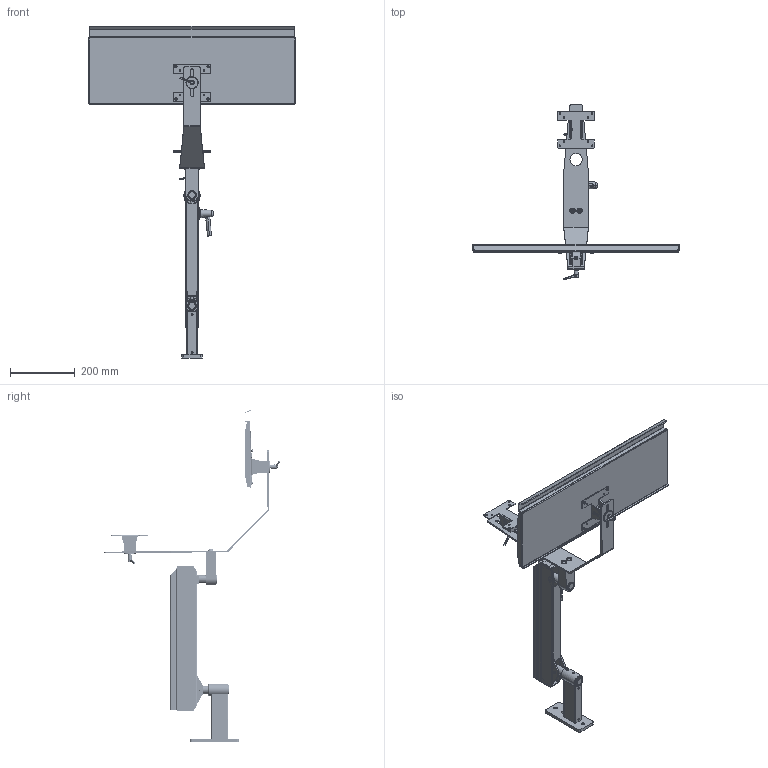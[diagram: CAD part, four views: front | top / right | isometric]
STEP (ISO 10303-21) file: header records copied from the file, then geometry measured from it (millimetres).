
FILE_DESCRIPTION (( 'STEP AP203' ), '1' );
FILE_NAME ('70-8646-00 REV AA, IND. FLEX 360 WORKSTATION, 18-43 LB - FLAT.STEP', '2025-09-30T23:07:05', ( '' ), ( '' ), 'SwSTEP 2.0', 'SolidWorks 2025', '' );
FILE_SCHEMA (( 'CONFIG_CONTROL_DESIGN' ));
Length unit declared in the file: inch
Products named in the file (61): 11-0027-RX REV AA, PLASTIC DISC, BRAKE ASSEMBLY_MACHINE; 71-0070-RX REV AA, AXLE PIN, SHORT; 005-084-00, BOLT, 1''4-20x2.75; 002-041-00_002-041-00; 70-0080-00 REV AA, INTEGRATED WORKSTATION_TRAY HORIZONTAL; 007-017-00, SHSS, 1''4-20, .25L_DEFAULT; 11-0405-BLKX REV AA, BRACKET, INTEGRATED WORKSTATION, BLACK; 70-0072-00 REV AA, EXTENSION ARM; 71-0071-RX REV AA, AXLE PIN, LONG; 006-059-00; 70-0095-00 REV AA, STUD MOUNT, 6in EXT; 71-0040-RX REV AA, BRAKE BLOCK, WIDE_MACHINE; 010-012-00, RETAINING RING, EXTERNAL, .875in SHAFT; 71-1051-RX REV AA, SPRING BLOCK; 007-036-00, SHSS, 1''4-28, .25L_007-036-00; 71-0217-RX REV AA, PLATE, NARROW WALL MOUNT_Laser; 016-008-00, OILITE PLUS BEARING, 0.876 id x 1.002 od x 1.25 lg; 71-0038-RX REV AA, PIVOT, KNUCKLE, ELECTROLESS NICKEL; 71-2113-RX REV AA, HOUSING, BEARING, TALL, 1.5OD_MACHINE; 71-1301-BLKX REV AA, FLEX HOUSING, 13.5in, BLACK_Weld; 013-036-00, SPRING, GREEN, 1x8_ISO425203; 002-306-00, BHSCS, 3''8-16 x .625; 006-004-00_006-004-00; 70-8646-00 REV AA, IND. FLEX 360 WORKSTATION, 18-43 LB - FLAT; 016-007-00, OILITE PLUS BEARING, 0.876 id x 1.002 od x 0.75 lg; 71-0037-RX REV AA, PIVOT, THREADED; 71-0031-RX REV AA, KNUCKLE, MOUNT_MACHINE; 11-0028-RX REV AA, PLASTIC DISC, VESA; 71-1032-RX REV AA, SPRING ROD, 13.5in FLEX; 007-034-00, SHSS, .375-24, .25L_007-034-00; 71-1033-RX REV AA, BOLT, ADJUSTING, 10.9; 010-011-00, RETAINING RING, EXT, .250 SHAFT_010-011-00; 71-0972-99 REV AA, END CAP, FLEX; 11-0406-BLKX REV AA, KEYBOARD TRAY, 25x8, BLACK; 004-050-00, WASHER, FIBER, .032 THK, .265ID; 019-004_019-004; 011-033-00; 71-1300-RX REV AA, HOUSING, 13.5in FLEX; 71-0072-RX REV AA, EXTENSION ARM, RAW; 41-0060-ANX REV AA, BODY, VESA, INT. WORKSTATION, BLACK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
Assembly tree (107 placements, depth 5):
  70-8646-00 REV AA, IND. FLEX 360 WORKSTATION, 18-43 LB - FLAT
    70-0095-00 REV AA, STUD MOUNT, 6in EXT
      71-0217-RX REV AA, PLATE, NARROW WALL MOUNT_Laser
      71-0091-RX REV AA, HOUSING, WALL MOUNT, 6in EXTENSION
      71-2113-RX REV AA, HOUSING, BEARING, TALL, 1.5OD_MACHINE
      016-007-00, OILITE PLUS BEARING, 0.876 id x 1.002 od x 0.75 lg
      016-008-00, OILITE PLUS BEARING, 0.876 id x 1.002 od x 1.25 lg
      007-036-00, SHSS, 1''4-28, .25L_007-036-00
    70-1343-00 REV AA, FLEX SECTION, 13.5in, 18-43 LB_Horizontal
      71-0031-RX REV AA, KNUCKLE, MOUNT_MACHINE
      71-1032-RX REV AA, SPRING ROD, 13.5in FLEX
      71-0030-RX REV AA, KNUCKLE, LOAD_MACHINE
      71-0038-RX REV AA, PIVOT, KNUCKLE, ELECTROLESS NICKEL
      71-1033-RX REV AA, BOLT, ADJUSTING, 10.9
      71-0037-RX REV AA, PIVOT, THREADED
      71-0040-RX REV AA, BRAKE BLOCK, WIDE_MACHINE
      71-1051-RX REV AA, SPRING BLOCK
      71-1301-BLKX REV AA, FLEX HOUSING, 13.5in, BLACK_Weld
        71-1300-RX REV AA, HOUSING, 13.5in FLEX
        71-0029-RX REV AA, TAB, LOAD  x2
        71-0028-RX REV AA, TAB, MOUNT_MACHINE  x2
      71-0070-RX REV AA, AXLE PIN, SHORT
      71-0071-RX REV AA, AXLE PIN, LONG
      71-0972-99 REV AA, END CAP, FLEX  x2
      11-0027-RX REV AA, PLASTIC DISC, BRAKE ASSEMBLY_MACHINE
      11-0650-00 REV AA, BRAKE HANDLE ASSEMBLY
        11-0601-99 REV AA, CONICAL KNOB, BRAKE ASSEMBLY
        11-0602-RX REV AA, HANDLE, BRAKE ASSEMBLY
        11-0027-RX REV AA, PLASTIC DISC, BRAKE ASSEMBLY_MACHINE
        005-084-00, BOLT, 1''4-20x2.75
      006-004-00_006-004-00  x2
      002-041-00_002-041-00  x2
      010-012-00, RETAINING RING, EXTERNAL, .875in SHAFT  x2
      010-011-00, RETAINING RING, EXT, .250 SHAFT_010-011-00  x4
      011-033-00
      004-050-00, WASHER, FIBER, .032 THK, .265ID  x8
      011-020-00 REV AA, PIN, KNURLED, 1.0LG x .25OD  x2
      004-144-00  x3
      006-059-00
      013-036-00, SPRING, GREEN, 1x8_ISO425203
      016-070-00, BEARING, PLASTIC, .5ID x .625 OD x .75  x2
    70-0080-00 REV AA, INTEGRATED WORKSTATION_TRAY HORIZONTAL
      11-0405-BLKX REV AA, BRACKET, INTEGRATED WORKSTATION, BLACK
      42-0060-00 REV AA, VESA SUB ASSEMBLY, INT. WORKSTATION
        41-0060-ANX REV AA, BODY, VESA, INT. WORKSTATION, BLACK
          41-0060-RX REV AA, BODY, VESA, INT. WORKSTATION
        41-0063-RX REV AA, PIN, TILT, VESA
        11-0062-BLKX REV AA, BRACKET, VESA, SHEETMETAL, BLACK
        11-0027-RX REV AA, PLASTIC DISC, BRAKE ASSEMBLY_MACHINE
        025-064-00, LOCK LEVER, QUARTER20 x .390
        016-012-00, OILITE PLUS BEARING, .876 IDx1.0 OD x 1.0
        007-034-00, SHSS, .375-24, .25L_007-034-00
        11-0028-RX REV AA, PLASTIC DISC, VESA  x2
        002-088-00, FHSCS 10-32 x .5L, BO_002-088-00  x4
      11-0406-BLKX REV AA, KEYBOARD TRAY, 25x8, BLACK
      70-0072-00 REV AA, EXTENSION ARM
        71-0072-RX REV AA, EXTENSION ARM, RAW
        016-008-00, OILITE PLUS BEARING, 0.876 id x 1.002 od x 1.25 lg
        007-017-00, SHSS, 1''4-20, .25L_DEFAULT
      002-306-00, BHSCS, 3''8-16 x .625  x2
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Bounding box: 641.2 x 543.73 x 1028.93 mm (x, y, z)
Volume: 1590158.7 mm3; surface area: 1081693 mm2
Topology: 104 solids, 104 shells, 3313 faces, 8111 edges, 5014 vertices
Faces by surface type: cylinder 1491, plane 888, cone 708, torus 129, bspline 87, sphere 10
Entity records: 100605 total; most frequent: CARTESIAN_POINT 55057, ORIENTED_EDGE 7992, DIRECTION 7812, EDGE_CURVE 3996, AXIS2_PLACEMENT_3D 2993, VERTEX_POINT 2470, LINE 1826, VECTOR 1826
